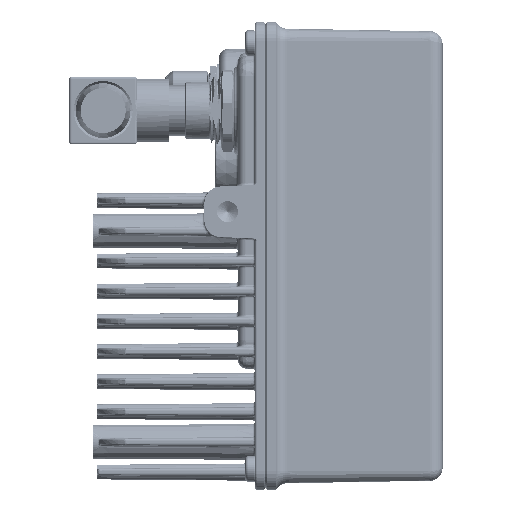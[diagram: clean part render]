
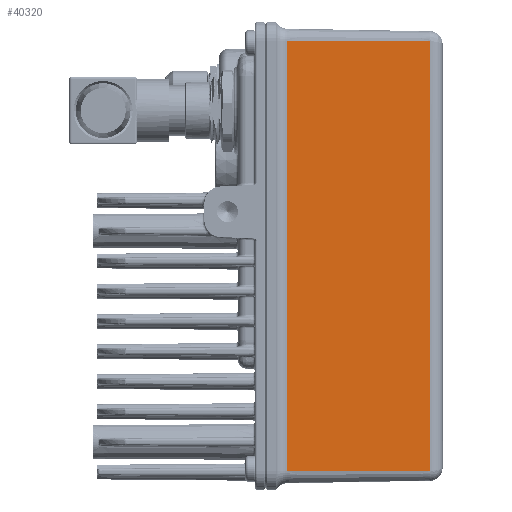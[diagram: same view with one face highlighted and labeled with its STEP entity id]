
A CAD part, front view. The second image highlights one B-rep face of the part: STEP entity #40320.
In plain terms, the highlighted planar face has unit normal (0.018, -1, 0).
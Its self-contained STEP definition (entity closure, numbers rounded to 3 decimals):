
#4697=FACE_OUTER_BOUND('',#7167,.T.);
#7167=EDGE_LOOP('',(#27650,#27651,#27652,#27653));
#9170=LINE('',#57450,#10793);
#9756=LINE('',#60490,#11379);
#9776=LINE('',#60894,#11399);
#9785=LINE('',#60914,#11408);
#10793=VECTOR('',#46772,10.);
#11379=VECTOR('',#49840,3.);
#11399=VECTOR('',#49984,10.);
#11408=VECTOR('',#50015,10.);
#14912=VERTEX_POINT('',#57399);
#14913=VERTEX_POINT('',#57449);
#15832=VERTEX_POINT('',#60477);
#15835=VERTEX_POINT('',#60488);
#18630=EDGE_CURVE('',#14912,#14913,#9170,.T.);
#20014=EDGE_CURVE('',#15835,#15832,#9756,.T.);
#20073=EDGE_CURVE('',#15832,#14912,#9776,.T.);
#20082=EDGE_CURVE('',#15835,#14913,#9785,.T.);
#27650=ORIENTED_EDGE('',*,*,#20014,.F.);
#27651=ORIENTED_EDGE('',*,*,#20082,.T.);
#27652=ORIENTED_EDGE('',*,*,#18630,.F.);
#27653=ORIENTED_EDGE('',*,*,#20073,.F.);
#37041=PLANE('',#43616);
#40320=ADVANCED_FACE('',(#4697),#37041,.T.);
#43616=AXIS2_PLACEMENT_3D('',#60913,#50013,#50014);
#46772=DIRECTION('',(0.,0.,-1.));
#49840=DIRECTION('',(0.,0.,1.));
#49984=DIRECTION('',(1.,0.017,0.));
#50013=DIRECTION('center_axis',(0.017,-1.,0.));
#50014=DIRECTION('ref_axis',(0.,0.,-1.));
#50015=DIRECTION('',(1.,0.017,0.));
#57399=CARTESIAN_POINT('',(16.552,-35.318,40.5));
#57449=CARTESIAN_POINT('',(16.552,-35.318,-61.5));
#57450=CARTESIAN_POINT('',(16.552,-35.318,-36.));
#60477=CARTESIAN_POINT('',(-17.405,-35.911,40.5));
#60488=CARTESIAN_POINT('',(-17.405,-35.911,-61.5));
#60490=CARTESIAN_POINT('',(-17.405,-35.911,40.5));
#60894=CARTESIAN_POINT('',(-22.5,-36.,40.5));
#60913=CARTESIAN_POINT('Origin',(-22.5,-36.,-61.5));
#60914=CARTESIAN_POINT('',(-22.5,-36.,-61.5));
